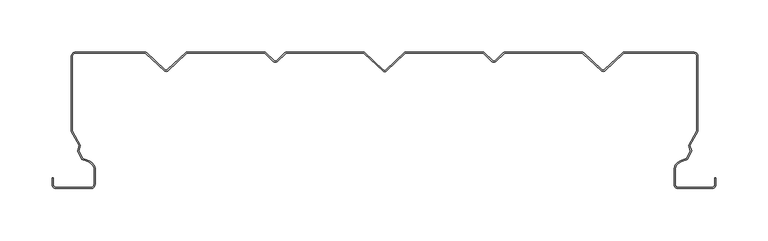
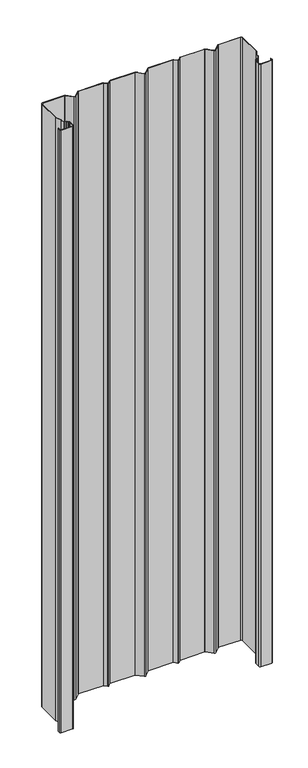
"""IFC4 building model written with IfcOpenShell, lengths in millimetres: plate geometry, HIANSA - H20.F09.007-CHAPA PERFILADA FACHADA VERTICAL - BANDEJA 130.600 - Panel de Muro Cortina : -."""

from ifc_helpers import new_model, si_unit, point, frame_2d, origin, origin_with_axes, place, context, project, spatial, polyline, circle_curve, trimmed, segment, composite_curve, outline, extrude, source, transform, mapped, element, save


def plate_2ee8f7ca(model_context):
    return source(origin(), model_context, "Body", "SweptSolid", [
        extrude(outline(composite_curve([segment(polyline([(277.1957927, -127.2), (277.1957927, -113.826586), (277.2108509, -111.6142146), (277.6244933, -109.8232529), (278.3806765, -108.4538074), (280.5370513, -106.1196712), (282.8406274, -104.6530492), (286.478786, -103.1431498), (289.1603133, -102.2915341), (292.8587453, -95.0289638), (291.209397, -89.5967319), (298.8999999, -75.9358826), (298.8999999, -4.2)]), True, "CONTINUOUS"), segment(trimmed(circle_curve(frame_2d((295.6999999, -4.2)), 3.2), [point((298.8999999, -4.2))], [point((295.6999999, -1.0))], True, "CARTESIAN"), True, "CONTINUOUS"), segment(polyline([(295.6999999, -1.0), (229.3291166, -1.0)]), True, "CONTINUOUS"), segment(trimmed(circle_curve(frame_2d((229.3291166, -2.2)), 1.2), [point((229.3291166, -1.0))], [point((228.5070407, -1.3258197))], True, "CARTESIAN"), True, "CONTINUOUS"), segment(polyline([(228.5070407, -1.3258197), (210.994113, -17.7949099)]), True, "CONTINUOUS"), segment(trimmed(circle_curve(frame_2d((209.075936, -15.7551558)), 2.8), [point((210.994113, -17.7949099))], [point((207.157759, -17.7949099))], False, "CARTESIAN"), True, "CONTINUOUS"), segment(polyline([(207.157759, -17.7949099), (189.6448313, -1.3258197)]), True, "CONTINUOUS"), segment(trimmed(circle_curve(frame_2d((188.8227555, -2.2)), 1.2), [point((189.6448313, -1.3258197))], [point((188.8227555, -1.0))], True, "CARTESIAN"), True, "CONTINUOUS"), segment(polyline([(188.8227555, -1.0), (115.1373975, -1.0)]), True, "CONTINUOUS"), segment(trimmed(circle_curve(frame_2d((115.1373975, -2.2)), 1.2), [point((115.1373975, -1.0))], [point((114.3016116, -1.3389181))], True, "CARTESIAN"), True, "CONTINUOUS"), segment(polyline([(114.3016116, -1.3389181), (106.3923495, -9.0158302)]), True, "CONTINUOUS"), segment(trimmed(circle_curve(frame_2d((104.4421824, -7.0066392)), 2.8), [point((106.3923495, -9.0158302))], [point((102.4920153, -9.0158302))], False, "CARTESIAN"), True, "CONTINUOUS"), segment(polyline([(102.4920153, -9.0158302), (94.5827532, -1.3389181)]), True, "CONTINUOUS"), segment(trimmed(circle_curve(frame_2d((93.7469673, -2.2)), 1.2), [point((94.5827532, -1.3389181))], [point((93.7469673, -1.0))], True, "CARTESIAN"), True, "CONTINUOUS"), segment(polyline([(93.7469673, -1.0), (20.0182434, -1.0)]), True, "CONTINUOUS"), segment(trimmed(circle_curve(frame_2d((20.0182434, -2.2)), 1.2), [point((20.0182434, -1.0))], [point((19.1917297, -1.3300143))], True, "CARTESIAN"), True, "CONTINUOUS"), segment(polyline([(19.1917297, -1.3300143), (1.6285319, -18.0156037)]), True, "CONTINUOUS"), segment(trimmed(circle_curve(frame_2d((-0.3000001, -15.9856371)), 2.8), [point((1.6285319, -18.0156037))], [point((-2.2285321, -18.0156037))], False, "CARTESIAN"), True, "CONTINUOUS"), segment(polyline([(-2.2285321, -18.0156037), (-19.79173, -1.3300143)]), True, "CONTINUOUS"), segment(trimmed(circle_curve(frame_2d((-20.6182437, -2.2)), 1.2), [point((-19.79173, -1.3300143))], [point((-20.6182437, -1.0))], True, "CARTESIAN"), True, "CONTINUOUS"), segment(polyline([(-20.6182437, -1.0), (-94.3469675, -1.0)]), True, "CONTINUOUS"), segment(trimmed(circle_curve(frame_2d((-94.3469675, -2.2)), 1.2), [point((-94.3469675, -1.0))], [point((-95.1827534, -1.3389181))], True, "CARTESIAN"), True, "CONTINUOUS"), segment(polyline([(-95.1827534, -1.3389181), (-103.0920156, -9.0158302)]), True, "CONTINUOUS"), segment(trimmed(circle_curve(frame_2d((-105.0421826, -7.0066392)), 2.8), [point((-103.0920156, -9.0158302))], [point((-106.9923497, -9.0158302))], False, "CARTESIAN"), True, "CONTINUOUS"), segment(polyline([(-106.9923497, -9.0158302), (-114.9016119, -1.3389181)]), True, "CONTINUOUS"), segment(trimmed(circle_curve(frame_2d((-115.7373978, -2.2)), 1.2), [point((-114.9016119, -1.3389181))], [point((-115.7373978, -1.0))], True, "CARTESIAN"), True, "CONTINUOUS"), segment(polyline([(-115.7373978, -1.0), (-189.4227557, -1.0)]), True, "CONTINUOUS"), segment(trimmed(circle_curve(frame_2d((-189.4227557, -2.2)), 1.2), [point((-189.4227557, -1.0))], [point((-190.2448316, -1.3258197))], True, "CARTESIAN"), True, "CONTINUOUS"), segment(polyline([(-190.2448316, -1.3258197), (-207.7577593, -17.7949099)]), True, "CONTINUOUS"), segment(trimmed(circle_curve(frame_2d((-209.6759363, -15.7551558)), 2.8), [point((-207.7577593, -17.7949099))], [point((-211.5941133, -17.7949099))], False, "CARTESIAN"), True, "CONTINUOUS"), segment(polyline([(-211.5941133, -17.7949099), (-229.107041, -1.3258197)]), True, "CONTINUOUS"), segment(trimmed(circle_curve(frame_2d((-229.9291169, -2.2)), 1.2), [point((-229.107041, -1.3258197))], [point((-229.9291169, -1.0))], True, "CARTESIAN"), True, "CONTINUOUS"), segment(polyline([(-229.9291169, -1.0), (-296.3000002, -1.0)]), True, "CONTINUOUS"), segment(trimmed(circle_curve(frame_2d((-296.3000002, -4.2)), 3.2), [point((-296.3000002, -1.0))], [point((-299.5000002, -4.2))], True, "CARTESIAN"), True, "CONTINUOUS"), segment(polyline([(-299.5000002, -4.2), (-299.5000002, -75.9358826), (-291.8093973, -89.5967319), (-293.4587455, -95.0289638), (-289.7603136, -102.2915341), (-287.0787863, -103.1431498), (-283.4406277, -104.6530492), (-281.1370516, -106.1196712), (-278.9806768, -108.4538074), (-278.2244935, -109.8232529), (-277.8108512, -111.6142146), (-277.7957929, -113.826586), (-277.7957929, -127.2)]), True, "CONTINUOUS"), segment(trimmed(circle_curve(frame_2d((-281.5957929, -127.2)), 3.8), [point((-277.7957929, -127.2))], [point((-281.5957929, -131.0))], False, "CARTESIAN"), True, "CONTINUOUS"), segment(polyline([(-281.5957929, -131.0), (-315.0998773, -131.0)]), True, "CONTINUOUS"), segment(trimmed(circle_curve(frame_2d((-315.0998773, -127.2)), 3.8), [point((-315.0998773, -131.0))], [point((-318.8998773, -127.2))], False, "CARTESIAN"), True, "CONTINUOUS"), segment(polyline([(-318.8998773, -127.2), (-318.8998773, -120.6028106), (-317.8998773, -120.6028106), (-317.8998773, -127.2)]), True, "CONTINUOUS"), segment(trimmed(circle_curve(frame_2d((-315.0998773, -127.2)), 2.8), [point((-317.8998773, -127.2))], [point((-315.0998773, -130.0))], True, "CARTESIAN"), True, "CONTINUOUS"), segment(polyline([(-315.0998773, -130.0), (-281.5957929, -130.0)]), True, "CONTINUOUS"), segment(trimmed(circle_curve(frame_2d((-281.5957929, -127.2)), 2.8), [point((-281.5957929, -130.0))], [point((-278.7957929, -127.2))], True, "CARTESIAN"), True, "CONTINUOUS"), segment(polyline([(-278.7957929, -127.2), (-278.7957929, -113.8299892), (-278.8100757, -111.7315524), (-279.1674138, -110.1843731), (-279.7974759, -109.0433326), (-281.7835433, -106.8935432), (-283.9042997, -105.5433173), (-287.4224219, -104.0832351), (-289.1988573, -103.519064), (-290.424435, -103.1910564), (-294.5326295, -95.12384), (-292.8903867, -89.7150105), (-300.5000002, -76.198023), (-300.5000002, -4.2)]), True, "CONTINUOUS"), segment(trimmed(circle_curve(frame_2d((-296.3000002, -4.2)), 4.2), [point((-300.5000002, -4.2))], [point((-296.3000002, 0.0))], False, "CARTESIAN"), True, "CONTINUOUS"), segment(polyline([(-296.3000002, 0.0), (-229.9291169, 0.0)]), True, "CONTINUOUS"), segment(trimmed(circle_curve(frame_2d((-229.9291169, -2.2)), 2.2), [point((-229.9291169, 0.0))], [point((-228.4219778, -0.597336))], False, "CARTESIAN"), True, "CONTINUOUS"), segment(polyline([(-228.4219778, -0.597336), (-210.9090501, -17.0664263)]), True, "CONTINUOUS"), segment(trimmed(circle_curve(frame_2d((-209.6759363, -15.7551558)), 1.8), [point((-210.9090501, -17.0664263))], [point((-208.4428225, -17.0664263))], True, "CARTESIAN"), True, "CONTINUOUS"), segment(polyline([(-208.4428225, -17.0664263), (-190.9298948, -0.597336)]), True, "CONTINUOUS"), segment(trimmed(circle_curve(frame_2d((-189.4227557, -2.2)), 2.2), [point((-190.9298948, -0.597336))], [point((-189.4227557, 0.0))], False, "CARTESIAN"), True, "CONTINUOUS"), segment(polyline([(-189.4227557, 0.0), (-115.7373978, 0.0)]), True, "CONTINUOUS"), segment(trimmed(circle_curve(frame_2d((-115.7373978, -2.2)), 2.2), [point((-115.7373978, 0.0))], [point((-114.2051236, -0.6213499))], False, "CARTESIAN"), True, "CONTINUOUS"), segment(polyline([(-114.2051236, -0.6213499), (-106.2958615, -8.298262)]), True, "CONTINUOUS"), segment(trimmed(circle_curve(frame_2d((-105.0421826, -7.0066392)), 1.8), [point((-106.2958615, -8.298262))], [point((-103.7885038, -8.298262))], True, "CARTESIAN"), True, "CONTINUOUS"), segment(polyline([(-103.7885038, -8.298262), (-95.8792417, -0.6213499)]), True, "CONTINUOUS"), segment(trimmed(circle_curve(frame_2d((-94.3469675, -2.2)), 2.2), [point((-95.8792417, -0.6213499))], [point((-94.3469675, 0.0))], False, "CARTESIAN"), True, "CONTINUOUS"), segment(polyline([(-94.3469675, 0.0), (-20.6182437, 0.0)]), True, "CONTINUOUS"), segment(trimmed(circle_curve(frame_2d((-20.6182437, -2.2)), 2.2), [point((-20.6182437, 0.0))], [point((-19.1029685, -0.6050262))], False, "CARTESIAN"), True, "CONTINUOUS"), segment(polyline([(-19.1029685, -0.6050262), (-1.5397707, -17.2906156)]), True, "CONTINUOUS"), segment(trimmed(circle_curve(frame_2d((-0.3000001, -15.9856371)), 1.8), [point((-1.5397707, -17.2906156))], [point((0.9397704, -17.2906156))], True, "CARTESIAN"), True, "CONTINUOUS"), segment(polyline([(0.9397704, -17.2906156), (18.5029682, -0.6050263)]), True, "CONTINUOUS"), segment(trimmed(circle_curve(frame_2d((20.0182434, -2.2)), 2.2), [point((18.5029682, -0.6050263))], [point((20.0182434, 0.0))], False, "CARTESIAN"), True, "CONTINUOUS"), segment(polyline([(20.0182434, 0.0), (93.7469673, 0.0)]), True, "CONTINUOUS"), segment(trimmed(circle_curve(frame_2d((93.7469673, -2.2)), 2.2), [point((93.7469673, 0.0))], [point((95.2792414, -0.6213499))], False, "CARTESIAN"), True, "CONTINUOUS"), segment(polyline([(95.2792414, -0.6213499), (103.1885036, -8.298262)]), True, "CONTINUOUS"), segment(trimmed(circle_curve(frame_2d((104.4421824, -7.0066392)), 1.8), [point((103.1885036, -8.298262))], [point((105.6958612, -8.298262))], True, "CARTESIAN"), True, "CONTINUOUS"), segment(polyline([(105.6958612, -8.298262), (113.6051234, -0.6213499)]), True, "CONTINUOUS"), segment(trimmed(circle_curve(frame_2d((115.1373975, -2.2)), 2.2), [point((113.6051234, -0.6213499))], [point((115.1373975, 0.0))], False, "CARTESIAN"), True, "CONTINUOUS"), segment(polyline([(115.1373975, 0.0), (188.8227555, 0.0)]), True, "CONTINUOUS"), segment(trimmed(circle_curve(frame_2d((188.8227555, -2.2)), 2.2), [point((188.8227555, 0.0))], [point((190.3298945, -0.597336))], False, "CARTESIAN"), True, "CONTINUOUS"), segment(polyline([(190.3298945, -0.597336), (207.8428222, -17.0664263)]), True, "CONTINUOUS"), segment(trimmed(circle_curve(frame_2d((209.075936, -15.7551558)), 1.8), [point((207.8428222, -17.0664263))], [point((210.3090498, -17.0664263))], True, "CARTESIAN"), True, "CONTINUOUS"), segment(polyline([(210.3090498, -17.0664263), (227.8219775, -0.597336)]), True, "CONTINUOUS"), segment(trimmed(circle_curve(frame_2d((229.3291166, -2.2)), 2.2), [point((227.8219775, -0.597336))], [point((229.3291166, 0.0))], False, "CARTESIAN"), True, "CONTINUOUS"), segment(polyline([(229.3291166, 0.0), (295.6999999, 0.0)]), True, "CONTINUOUS"), segment(trimmed(circle_curve(frame_2d((295.6999999, -4.2)), 4.2), [point((295.6999999, 0.0))], [point((299.8999999, -4.2))], False, "CARTESIAN"), True, "CONTINUOUS"), segment(polyline([(299.8999999, -4.2), (299.8999999, -76.198023), (292.2903864, -89.7150105), (293.9326292, -95.12384), (289.8244347, -103.1910564), (288.5988571, -103.519064), (286.8224217, -104.0832351), (283.3042994, -105.5433173), (281.1835431, -106.8935432), (279.1974757, -109.0433326), (278.5674136, -110.1843731), (278.2100754, -111.7315524), (278.1957927, -113.8299892), (278.1957927, -127.2)]), True, "CONTINUOUS"), segment(trimmed(circle_curve(frame_2d((280.9957927, -127.2)), 2.8), [point((278.1957927, -127.2))], [point((280.9957927, -130.0))], True, "CARTESIAN"), True, "CONTINUOUS"), segment(polyline([(280.9957927, -130.0), (313.3462417, -130.0)]), True, "CONTINUOUS"), segment(trimmed(circle_curve(frame_2d((313.3462417, -127.2)), 2.8), [point((313.3462417, -130.0))], [point((316.1462417, -127.2))], True, "CARTESIAN"), True, "CONTINUOUS"), segment(polyline([(316.1462417, -127.2), (316.1462417, -120.6028106), (317.1462417, -120.6028106), (317.1462417, -127.2)]), True, "CONTINUOUS"), segment(trimmed(circle_curve(frame_2d((313.3462417, -127.2)), 3.8), [point((317.1462417, -127.2))], [point((313.3462417, -131.0))], False, "CARTESIAN"), True, "CONTINUOUS"), segment(polyline([(313.3462417, -131.0), (280.9957927, -131.0)]), True, "CONTINUOUS"), segment(trimmed(circle_curve(frame_2d((280.9957927, -127.2)), 3.8), [point((280.9957927, -131.0))], [point((277.1957927, -127.2))], False, "CARTESIAN"), True, "CONTINUOUS")], self_intersect=False)), origin_with_axes(), (0.0, 0.0, 1.0), 1905.0),
    ])


if __name__ == "__main__":
    model = new_model("IFC4")
    model_context = context("Model", 3, world=origin())
    ifc_project = project(units=[si_unit("LENGTHUNIT", "METRE", prefix="MILLI")], contexts=[model_context])
    site = spatial("IfcSite", under=ifc_project)
    building = spatial("IfcBuilding", under=site)
    placement = place(None, origin())
    plate_shape = plate_2ee8f7ca(model_context)
    element("IfcPlate", 1, ObjectType="HIANSA - H20.F09.007-CHAPA PERFILADA FACHADA VERTICAL - BANDEJA 130.600 - Panel de Muro Cortina : -", at=placement, inside=building, context=model_context, shape_type="MappedRepresentation", body=[
        mapped(plate_shape, transform((0.0, 0.0, 0.0), x_axis=(1.0, 0.0, 0.0), y_axis=(0.0, 1.0, 0.0), z_axis=(0.0, 0.0, 1.0))),
    ])
    save(model, "model.ifc")
